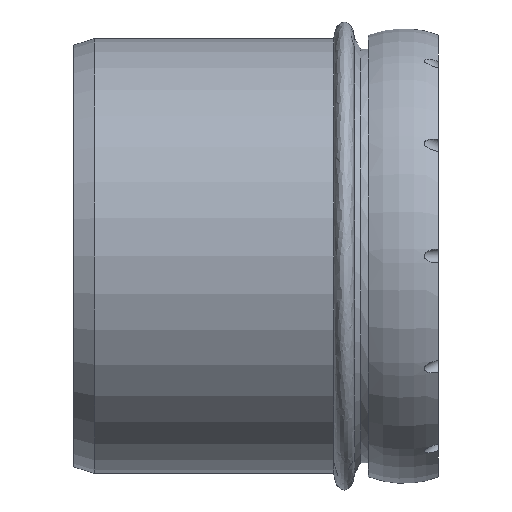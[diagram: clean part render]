
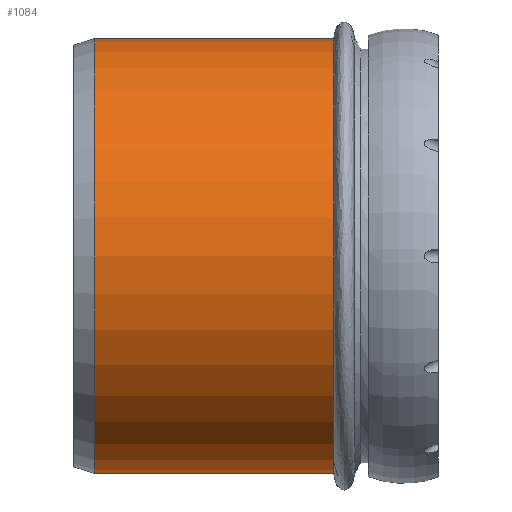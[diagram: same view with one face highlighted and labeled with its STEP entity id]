
A CAD part, front view. The second image highlights one B-rep face of the part: STEP entity #1084.
In plain terms, the highlighted cylindrical face has radius 62.6 mm (diameter 125.2 mm), a full revolution.
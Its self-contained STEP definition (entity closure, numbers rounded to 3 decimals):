
#21=FACE_BOUND('',#204,.T.);
#141=FACE_OUTER_BOUND('',#203,.T.);
#203=EDGE_LOOP('',(#916));
#204=EDGE_LOOP('',(#917));
#270=CIRCLE('',#1206,62.6);
#272=CIRCLE('',#1210,62.6);
#498=VERTEX_POINT('',#2300);
#500=VERTEX_POINT('',#2307);
#646=EDGE_CURVE('',#498,#498,#270,.T.);
#648=EDGE_CURVE('',#500,#500,#272,.T.);
#916=ORIENTED_EDGE('',*,*,#646,.F.);
#917=ORIENTED_EDGE('',*,*,#648,.T.);
#968=CYLINDRICAL_SURFACE('',#1211,62.6);
#1084=ADVANCED_FACE('',(#141,#21),#968,.T.);
#1206=AXIS2_PLACEMENT_3D('',#2302,#1511,#1512);
#1210=AXIS2_PLACEMENT_3D('',#2308,#1519,#1520);
#1211=AXIS2_PLACEMENT_3D('',#2309,#1521,#1522);
#1511=DIRECTION('center_axis',(1.,0.,0.));
#1512=DIRECTION('ref_axis',(0.,0.,-1.));
#1519=DIRECTION('center_axis',(1.,0.,0.));
#1520=DIRECTION('ref_axis',(0.,0.,-1.));
#1521=DIRECTION('center_axis',(1.,0.,0.));
#1522=DIRECTION('ref_axis',(0.,1.,0.));
#2300=CARTESIAN_POINT('',(74.9,64.7,0.));
#2302=CARTESIAN_POINT('Origin',(74.9,2.1,0.));
#2307=CARTESIAN_POINT('',(6.,64.7,0.));
#2308=CARTESIAN_POINT('Origin',(6.,2.1,0.));
#2309=CARTESIAN_POINT('Origin',(40.45,2.1,0.));
